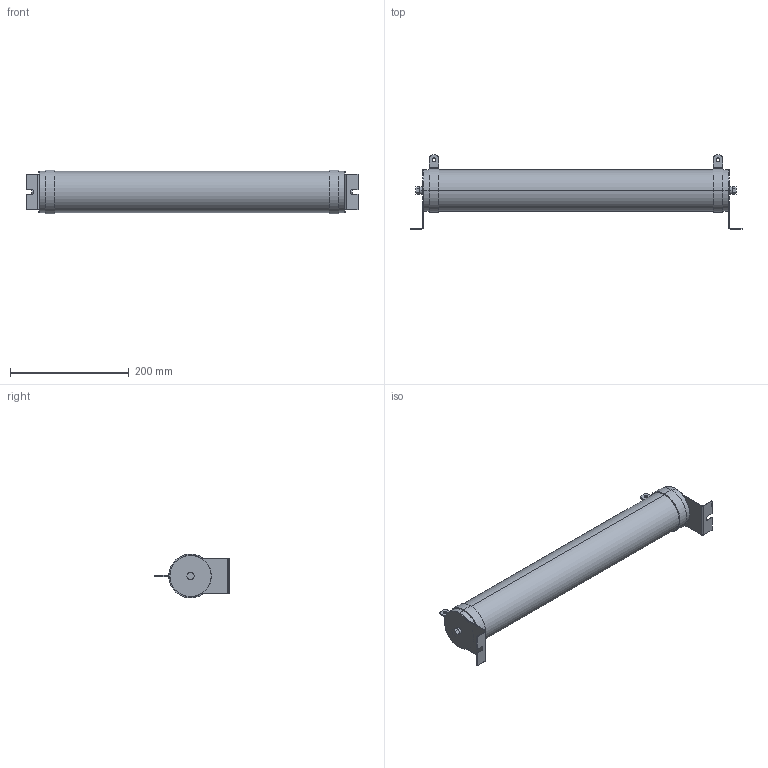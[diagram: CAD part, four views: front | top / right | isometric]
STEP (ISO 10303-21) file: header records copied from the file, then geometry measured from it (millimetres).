
FILE_DESCRIPTION (( 'STEP AP203' ), '1' );
FILE_NAME ('IRT-50-2000.STEP', '2022-11-16T11:54:27', ( '' ), ( '' ), 'SwSTEP 2.0', 'SolidWorks 2018', '' );
FILE_SCHEMA (( 'CONFIG_CONTROL_DESIGN' ));
Length unit declared in the file: millimetre
Products named in the file (1): IRT-50-2000
Bounding box: 560 x 125 x 74 mm (x, y, z)
Volume: 2014197.1 mm3; surface area: 139370.1 mm2
Topology: 1 solids, 1 shells, 106 faces, 258 edges, 164 vertices
Faces by surface type: plane 60, cylinder 46
Entity records: 3199 total; most frequent: DIRECTION 576, CARTESIAN_POINT 529, ORIENTED_EDGE 516, EDGE_CURVE 258, AXIS2_PLACEMENT_3D 211, VERTEX_POINT 164, LINE 154, VECTOR 154
